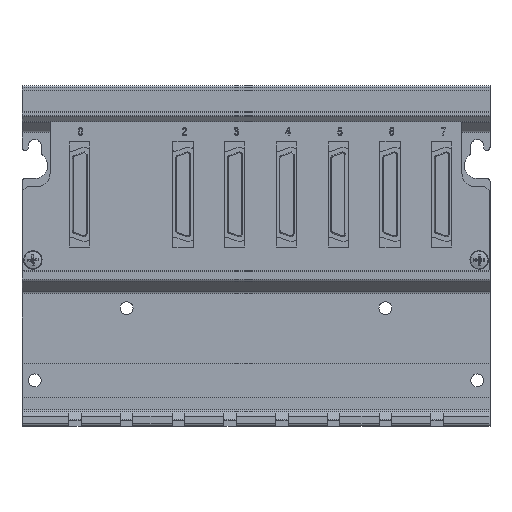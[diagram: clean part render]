
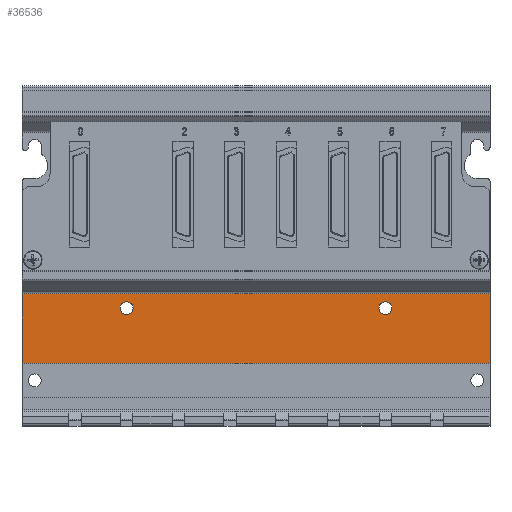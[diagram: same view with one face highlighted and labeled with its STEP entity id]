
A CAD part, top view. The second image highlights one B-rep face of the part: STEP entity #36536.
In plain terms, the highlighted planar face has unit normal (0, 0, 1).
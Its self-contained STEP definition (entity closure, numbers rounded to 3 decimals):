
#954 = LINE ( 'NONE', #955, #7016 ) ;
#955 = CARTESIAN_POINT ( 'NONE',  ( -81.85, -42.6, -3.5 ) ) ;
#956 = DIRECTION ( 'NONE',  ( -1., 0., 0. ) ) ;
#3426 = ORIENTED_EDGE ( 'NONE', *, *, #36312, .T. ) ;
#3718 = ORIENTED_EDGE ( 'NONE', *, *, #37870, .F. ) ;
#3843 = ORIENTED_EDGE ( 'NONE', *, *, #33821, .F. ) ;
#7016 = VECTOR ( 'NONE', #956, 1000. ) ;
#7017 = VECTOR ( 'NONE', #49513, 1000. ) ;
#7878 = EDGE_LOOP ( 'NONE', ( #28177, #3843, #45940, #3426 ) ) ;
#7900 = EDGE_LOOP ( 'NONE', ( #28167, #24711 ) ) ;
#7907 = EDGE_LOOP ( 'NONE', ( #45636, #3718 ) ) ;
#9575 = CARTESIAN_POINT ( 'NONE',  ( -45.25, -23.332, -3.5 ) ) ;
#9576 = DIRECTION ( 'NONE',  ( 0., 0., 1. ) ) ;
#9577 = DIRECTION ( 'NONE',  ( 1., 0., 0. ) ) ;
#9800 = LINE ( 'NONE', #9801, #16103 ) ;
#9801 = CARTESIAN_POINT ( 'NONE',  ( -81.85, -18.353, -3.5 ) ) ;
#9802 = DIRECTION ( 'NONE',  ( -1., 0., 0. ) ) ;
#9998 = CARTESIAN_POINT ( 'NONE',  ( 45.25, -23.332, -3.5 ) ) ;
#9999 = DIRECTION ( 'NONE',  ( 0., 0., 1. ) ) ;
#10000 = DIRECTION ( 'NONE',  ( 1., 0., 0. ) ) ;
#10071 = PLANE ( 'NONE',  #16203 ) ;
#10072 = FACE_OUTER_BOUND ( 'NONE', #7878, .T. ) ;
#10075 = FACE_BOUND ( 'NONE', #7907, .T. ) ;
#10077 = FACE_BOUND ( 'NONE', #7900, .T. ) ;
#10086 = CARTESIAN_POINT ( 'NONE',  ( 81.85, -59.272, -3.5 ) ) ;
#10087 = DIRECTION ( 'NONE',  ( 0., 0., 1. ) ) ;
#10088 = DIRECTION ( 'NONE',  ( 0., 1., 0. ) ) ;
#14265 = LINE ( 'NONE', #14266, #20419 ) ;
#14266 = CARTESIAN_POINT ( 'NONE',  ( -81.85, -59.272, -3.5 ) ) ;
#14286 = DIRECTION ( 'NONE',  ( 0., 1., 0. ) ) ;
#16022 = CIRCLE ( 'NONE', #16024, 2.25 ) ;
#16024 = AXIS2_PLACEMENT_3D ( 'NONE', #9575, #9576, #9577 ) ;
#16103 = VECTOR ( 'NONE', #9802, 1000. ) ;
#16171 = CIRCLE ( 'NONE', #16173, 2.25 ) ;
#16173 = AXIS2_PLACEMENT_3D ( 'NONE', #9998, #9999, #10000 ) ;
#16203 = AXIS2_PLACEMENT_3D ( 'NONE', #10086, #10087, #10088 ) ;
#20419 = VECTOR ( 'NONE', #14286, 1000. ) ;
#22087 = CARTESIAN_POINT ( 'NONE',  ( 81.85, -18.353, -3.5 ) ) ;
#22247 = CARTESIAN_POINT ( 'NONE',  ( -47.5, -23.332, -3.5 ) ) ;
#22409 = CARTESIAN_POINT ( 'NONE',  ( -81.85, -42.6, -3.5 ) ) ;
#22448 = CARTESIAN_POINT ( 'NONE',  ( -81.85, -18.353, -3.5 ) ) ;
#22484 = CARTESIAN_POINT ( 'NONE',  ( -43., -23.332, -3.5 ) ) ;
#22658 = CARTESIAN_POINT ( 'NONE',  ( 81.85, -42.6, -3.5 ) ) ;
#22679 = CARTESIAN_POINT ( 'NONE',  ( 43., -23.332, -3.5 ) ) ;
#22681 = CARTESIAN_POINT ( 'NONE',  ( 47.5, -23.332, -3.5 ) ) ;
#24711 = ORIENTED_EDGE ( 'NONE', *, *, #37889, .F. ) ;
#28167 = ORIENTED_EDGE ( 'NONE', *, *, #36167, .F. ) ;
#28177 = ORIENTED_EDGE ( 'NONE', *, *, #35179, .F. ) ;
#33718 = EDGE_CURVE ( 'NONE', #40052, #39310, #49509, .T. ) ;
#33821 = EDGE_CURVE ( 'NONE', #40052, #39690, #954, .T. ) ;
#35179 = EDGE_CURVE ( 'NONE', #39690, #39780, #14265, .T. ) ;
#36167 = EDGE_CURVE ( 'NONE', #39818, #39517, #16022, .T. ) ;
#36312 = EDGE_CURVE ( 'NONE', #39310, #39780, #9800, .T. ) ;
#36482 = EDGE_CURVE ( 'NONE', #40061, #40060, #16171, .T. ) ;
#36536 = ADVANCED_FACE ( 'NONE', ( #10075, #10077, #10072 ), #10071, .T. ) ;
#37870 = EDGE_CURVE ( 'NONE', #40060, #40061, #53130, .T. ) ;
#37889 = EDGE_CURVE ( 'NONE', #39517, #39818, #53252, .T. ) ;
#39310 = VERTEX_POINT ( 'NONE', #22087 ) ;
#39517 = VERTEX_POINT ( 'NONE', #22247 ) ;
#39690 = VERTEX_POINT ( 'NONE', #22409 ) ;
#39780 = VERTEX_POINT ( 'NONE', #22448 ) ;
#39818 = VERTEX_POINT ( 'NONE', #22484 ) ;
#40052 = VERTEX_POINT ( 'NONE', #22658 ) ;
#40060 = VERTEX_POINT ( 'NONE', #22679 ) ;
#40061 = VERTEX_POINT ( 'NONE', #22681 ) ;
#42573 = CARTESIAN_POINT ( 'NONE',  ( 45.25, -23.332, -3.5 ) ) ;
#42574 = DIRECTION ( 'NONE',  ( 0., 0., 1. ) ) ;
#42575 = DIRECTION ( 'NONE',  ( 1., 0., 0. ) ) ;
#42867 = CARTESIAN_POINT ( 'NONE',  ( -45.25, -23.332, -3.5 ) ) ;
#42868 = DIRECTION ( 'NONE',  ( 0., 0., 1. ) ) ;
#42869 = DIRECTION ( 'NONE',  ( 1., 0., 0. ) ) ;
#45636 = ORIENTED_EDGE ( 'NONE', *, *, #36482, .F. ) ;
#45940 = ORIENTED_EDGE ( 'NONE', *, *, #33718, .T. ) ;
#49509 = LINE ( 'NONE', #49511, #7017 ) ;
#49511 = CARTESIAN_POINT ( 'NONE',  ( 81.85, -59.272, -3.5 ) ) ;
#49513 = DIRECTION ( 'NONE',  ( 0., 1., 0. ) ) ;
#53128 = AXIS2_PLACEMENT_3D ( 'NONE', #42573, #42574, #42575 ) ;
#53130 = CIRCLE ( 'NONE', #53128, 2.25 ) ;
#53251 = AXIS2_PLACEMENT_3D ( 'NONE', #42867, #42868, #42869 ) ;
#53252 = CIRCLE ( 'NONE', #53251, 2.25 ) ;
